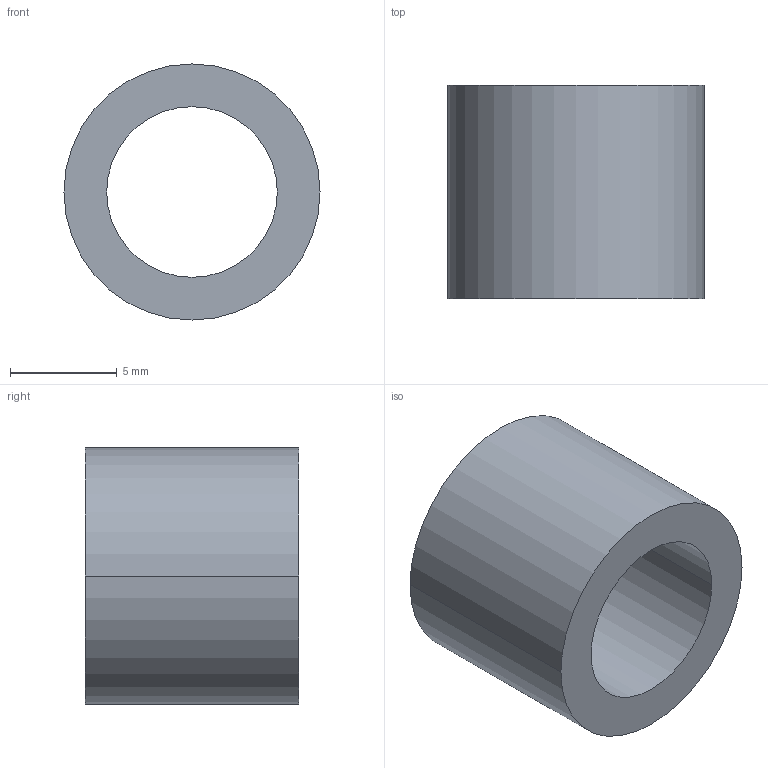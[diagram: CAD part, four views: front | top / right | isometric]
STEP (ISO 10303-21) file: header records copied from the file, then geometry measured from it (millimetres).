
FILE_DESCRIPTION (( 'STEP AP203' ), '1' );
FILE_NAME ('30800.WPP12D8.0.step', '2019-01-23T22:29:05', ( '' ), ( '' ), 'SwSTEP 2.0', 'SolidWorks 2017', '' );
FILE_SCHEMA (( 'CONFIG_CONTROL_DESIGN' ));
Length unit declared in the file: millimetre
Products named in the file (1): 30800.WPP12D8.0
Bounding box: 12 x 10 x 12 mm (x, y, z)
Volume: 615.2 mm3; surface area: 738.8 mm2
Topology: 1 solids, 1 shells, 8 faces, 16 edges, 10 vertices
Faces by surface type: cylinder 4, torus 2, plane 2
Entity records: 297 total; most frequent: DIRECTION 46, CARTESIAN_POINT 35, ORIENTED_EDGE 32, AXIS2_PLACEMENT_3D 21, EDGE_CURVE 16, CIRCLE 12, VERTEX_POINT 10, EDGE_LOOP 10
